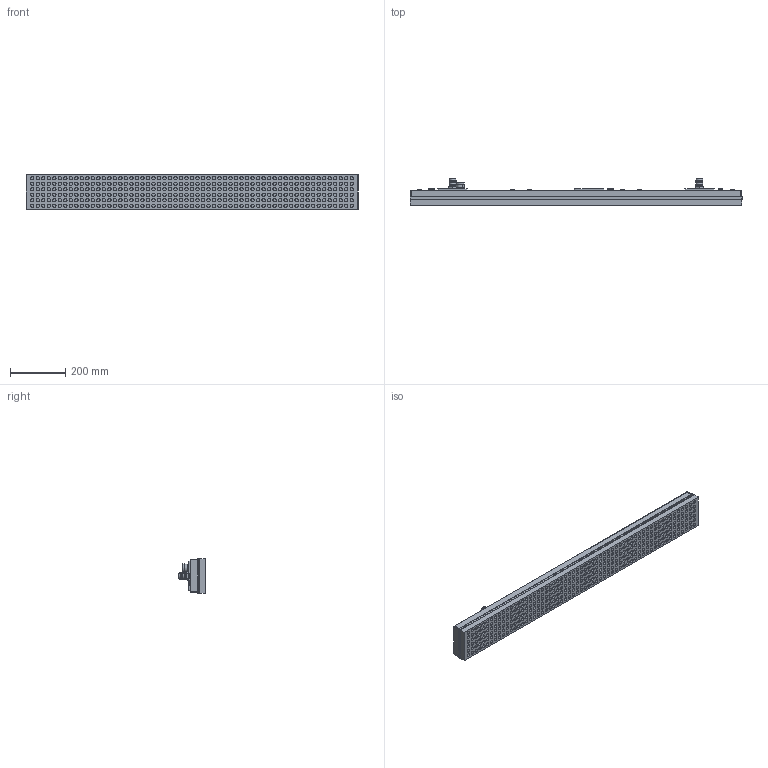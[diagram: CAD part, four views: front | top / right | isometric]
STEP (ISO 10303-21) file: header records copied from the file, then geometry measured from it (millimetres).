
FILE_DESCRIPTION (( 'STEP AP214' ), '1' );
FILE_NAME ('3-9-15422.STEP', '2012-09-03T06:18:40', ( 'cad' ), ( 'Microsoft' ), 'SwSTEP 2.0', 'SolidWorks 2012', '' );
FILE_SCHEMA (( 'AUTOMOTIVE_DESIGN' ));
Length unit declared in the file: millimetre
Products named in the file (1): 3-9-15422
Bounding box: 1206 x 96.5 x 126 mm (x, y, z)
Volume: 7522018.2 mm3; surface area: 799619.2 mm2
Topology: 1 solids, 1 shells, 1439 faces, 3021 edges, 1998 vertices
Faces by surface type: cylinder 808, plane 575, cone 56
Entity records: 51370 total; most frequent: DIRECTION 7525, CARTESIAN_POINT 6967, ORIENTED_EDGE 6042, AXIS2_PLACEMENT_3D 3132, EDGE_CURVE 3021, VERTEX_POINT 1998, EDGE_LOOP 1853, CIRCLE 1692
